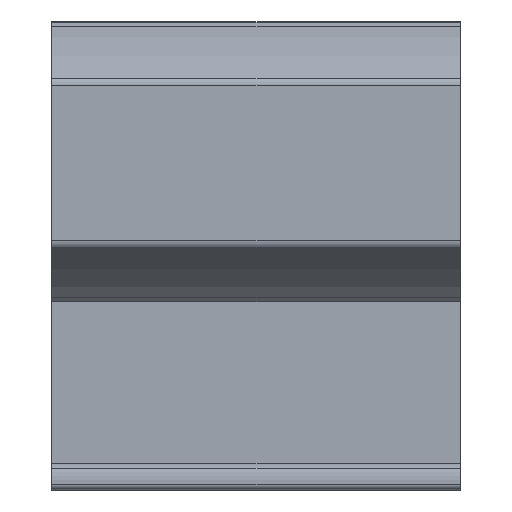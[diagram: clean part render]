
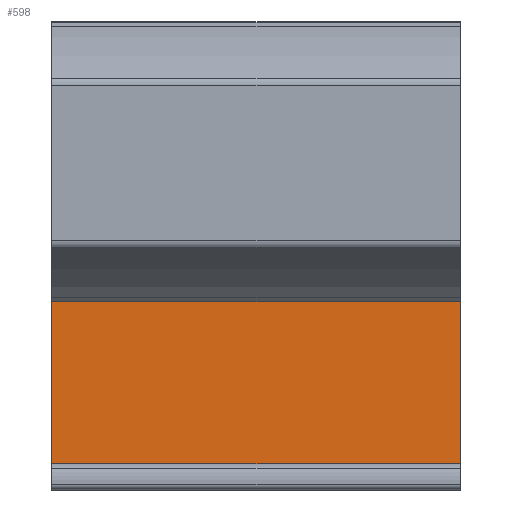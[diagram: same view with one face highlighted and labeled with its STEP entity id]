
A CAD part, left-side view. The second image highlights one B-rep face of the part: STEP entity #598.
In plain terms, the highlighted planar face has unit normal (-1, 0, 0).
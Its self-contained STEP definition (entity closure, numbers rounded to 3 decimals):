
#598=ADVANCED_FACE('',(#1190),#1191,.T.);
#1190=FACE_OUTER_BOUND('',#1777,.T.);
#1191=PLANE('',#1778);
#1777=EDGE_LOOP('',(#3425,#3426,#3427,#3428));
#1778=AXIS2_PLACEMENT_3D('',#3429,#3430,#3431);
#3425=ORIENTED_EDGE('',*,*,#4403,.T.);
#3426=ORIENTED_EDGE('',*,*,#4404,.F.);
#3427=ORIENTED_EDGE('',*,*,#4336,.T.);
#3428=ORIENTED_EDGE('',*,*,#4401,.T.);
#3429=CARTESIAN_POINT('',(4.688,10.0,-9.91));
#3430=DIRECTION('',(-1.0,0.0,0.0));
#3431=DIRECTION('',(0.0,0.0,-1.0));
#4336=EDGE_CURVE('',#5417,#5415,#5418,.T.);
#4401=EDGE_CURVE('',#5415,#5511,#5513,.T.);
#4403=EDGE_CURVE('',#5511,#5515,#5516,.T.);
#4404=EDGE_CURVE('',#5417,#5515,#5517,.T.);
#5415=VERTEX_POINT('',#6832);
#5417=VERTEX_POINT('',#6834);
#5418=LINE('',#6835,#6836);
#5511=VERTEX_POINT('',#6957);
#5513=LINE('',#6959,#6960);
#5515=VERTEX_POINT('',#6962);
#5516=LINE('',#6963,#6964);
#5517=LINE('',#6965,#6966);
#6832=CARTESIAN_POINT('',(4.688,10.0,-14.77));
#6834=CARTESIAN_POINT('',(4.688,10.0,-5.05));
#6835=CARTESIAN_POINT('',(4.688,10.0,-5.05));
#6836=VECTOR('',#7889,1.0);
#6957=CARTESIAN_POINT('',(4.688,-10.0,-14.77));
#6959=CARTESIAN_POINT('',(4.688,10.0,-14.77));
#6960=VECTOR('',#7975,1.0);
#6962=CARTESIAN_POINT('',(4.688,-10.0,-5.05));
#6963=CARTESIAN_POINT('',(4.688,-10.0,-5.05));
#6964=VECTOR('',#7976,1.0);
#6965=CARTESIAN_POINT('',(4.688,10.0,-5.05));
#6966=VECTOR('',#7977,1.0);
#7889=DIRECTION('',(0.0,0.0,-1.0));
#7975=DIRECTION('',(0.0,-1.0,0.0));
#7976=DIRECTION('',(0.0,0.0,1.0));
#7977=DIRECTION('',(0.0,-1.0,0.0));
